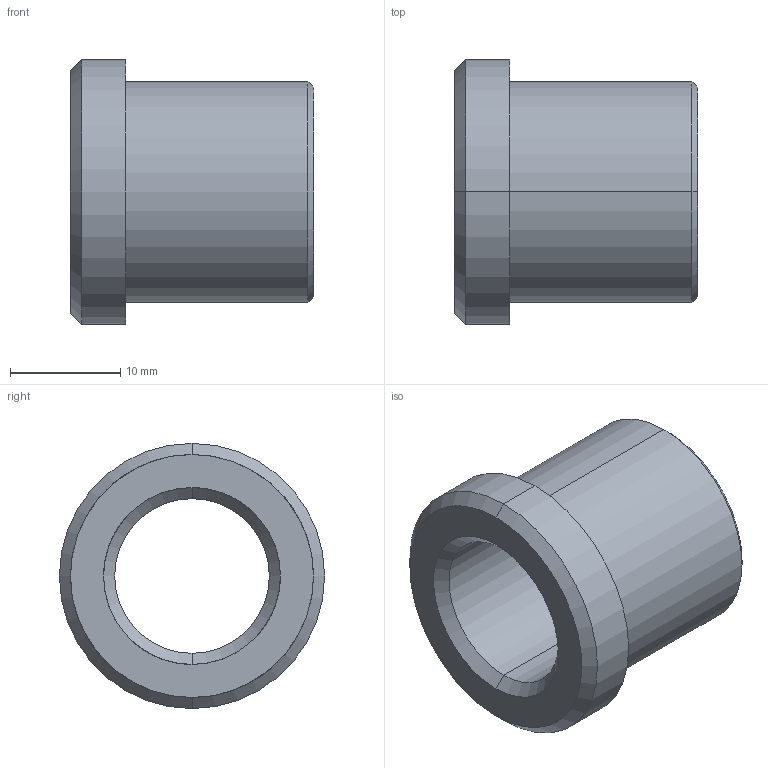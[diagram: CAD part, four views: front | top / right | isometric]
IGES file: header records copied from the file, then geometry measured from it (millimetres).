
Start section: START RECORD GO HERE.
Global section: file name: 353-14X22.igs; native system: DASSAULT SYSTEMES CATIA V5 R20 - www.3ds.com; preprocessor: CATIA Version 5 Release 20 ; author: Utente; organization: NB04-ASUS; date: 20210421.141908; units: millimetre
Bounding box: 22 x 24 x 24 mm (x, y, z)
Surface area: 2902.6 mm2 (no closed solid volume)
Topology: 0 solids, 0 shells, 17 faces, 108 edges, 108 vertices
Faces by surface type: revolution 14, plane 3
